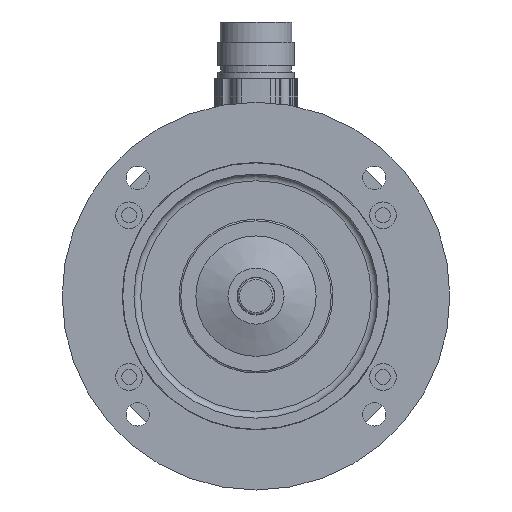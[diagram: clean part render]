
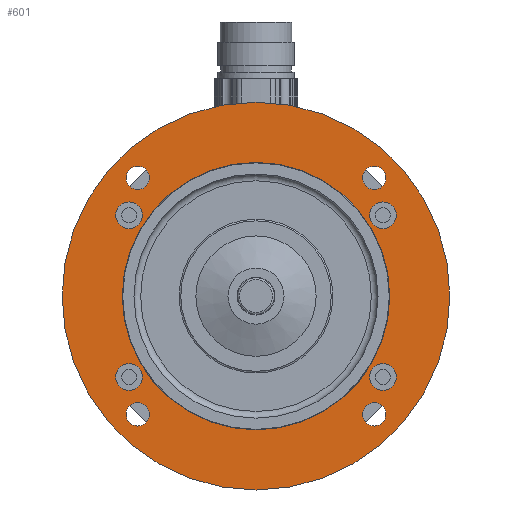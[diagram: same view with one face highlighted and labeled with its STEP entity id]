
A CAD part, front view. The second image highlights one B-rep face of the part: STEP entity #601.
In plain terms, the highlighted planar face has unit normal (0, -1, 0).
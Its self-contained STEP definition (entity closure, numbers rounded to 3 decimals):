
#601=ADVANCED_FACE('',(#1020,#1021,#1022,#1023,#1024,#1025,#1026,#1027,#1028,
#872),#812,.T.);
#812=PLANE('',#3297);
#872=FACE_OUTER_BOUND('',#1250,.T.);
#1020=FACE_BOUND('',#1241,.T.);
#1021=FACE_BOUND('',#1242,.T.);
#1022=FACE_BOUND('',#1243,.T.);
#1023=FACE_BOUND('',#1244,.T.);
#1024=FACE_BOUND('',#1245,.T.);
#1025=FACE_BOUND('',#1246,.T.);
#1026=FACE_BOUND('',#1247,.T.);
#1027=FACE_BOUND('',#1248,.T.);
#1028=FACE_BOUND('',#1249,.T.);
#1241=EDGE_LOOP('',(#1601));
#1242=EDGE_LOOP('',(#1602));
#1243=EDGE_LOOP('',(#1603));
#1244=EDGE_LOOP('',(#1604));
#1245=EDGE_LOOP('',(#1605));
#1246=EDGE_LOOP('',(#1606));
#1247=EDGE_LOOP('',(#1607));
#1248=EDGE_LOOP('',(#1608));
#1249=EDGE_LOOP('',(#1609));
#1250=EDGE_LOOP('',(#1610));
#1601=ORIENTED_EDGE('',*,*,#2634,.T.);
#1602=ORIENTED_EDGE('',*,*,#2635,.F.);
#1603=ORIENTED_EDGE('',*,*,#2636,.F.);
#1604=ORIENTED_EDGE('',*,*,#2637,.T.);
#1605=ORIENTED_EDGE('',*,*,#2638,.T.);
#1606=ORIENTED_EDGE('',*,*,#2639,.T.);
#1607=ORIENTED_EDGE('',*,*,#2640,.T.);
#1608=ORIENTED_EDGE('',*,*,#2641,.T.);
#1609=ORIENTED_EDGE('',*,*,#2642,.F.);
#1610=ORIENTED_EDGE('',*,*,#2643,.F.);
#2343=VERTEX_POINT('',#4891);
#2344=VERTEX_POINT('',#4893);
#2345=VERTEX_POINT('',#4895);
#2346=VERTEX_POINT('',#4897);
#2347=VERTEX_POINT('',#4899);
#2348=VERTEX_POINT('',#4901);
#2349=VERTEX_POINT('',#4903);
#2350=VERTEX_POINT('',#4905);
#2351=VERTEX_POINT('',#4907);
#2352=VERTEX_POINT('',#4909);
#2634=EDGE_CURVE('',#2343,#2343,#3005,.T.);
#2635=EDGE_CURVE('',#2344,#2344,#3006,.T.);
#2636=EDGE_CURVE('',#2345,#2345,#3007,.T.);
#2637=EDGE_CURVE('',#2346,#2346,#3008,.T.);
#2638=EDGE_CURVE('',#2347,#2347,#3009,.T.);
#2639=EDGE_CURVE('',#2348,#2348,#3010,.T.);
#2640=EDGE_CURVE('',#2349,#2349,#3011,.T.);
#2641=EDGE_CURVE('',#2350,#2350,#3012,.T.);
#2642=EDGE_CURVE('',#2351,#2351,#3013,.T.);
#2643=EDGE_CURVE('',#2352,#2352,#3014,.T.);
#3005=CIRCLE('',#3287,4.);
#3006=CIRCLE('',#3288,4.);
#3007=CIRCLE('',#3289,4.);
#3008=CIRCLE('',#3290,4.);
#3009=CIRCLE('',#3291,3.5);
#3010=CIRCLE('',#3292,3.5);
#3011=CIRCLE('',#3293,3.5);
#3012=CIRCLE('',#3294,3.5);
#3013=CIRCLE('',#3295,40.);
#3014=CIRCLE('',#3296,58.);
#3287=AXIS2_PLACEMENT_3D('',#4890,#3800,#3801);
#3288=AXIS2_PLACEMENT_3D('',#4892,#3802,#3803);
#3289=AXIS2_PLACEMENT_3D('',#4894,#3804,#3805);
#3290=AXIS2_PLACEMENT_3D('',#4896,#3806,#3807);
#3291=AXIS2_PLACEMENT_3D('',#4898,#3808,#3809);
#3292=AXIS2_PLACEMENT_3D('',#4900,#3810,#3811);
#3293=AXIS2_PLACEMENT_3D('',#4902,#3812,#3813);
#3294=AXIS2_PLACEMENT_3D('',#4904,#3814,#3815);
#3295=AXIS2_PLACEMENT_3D('',#4906,#3816,#3817);
#3296=AXIS2_PLACEMENT_3D('',#4908,#3818,#3819);
#3297=AXIS2_PLACEMENT_3D('',#4910,#3820,#3821);
#3800=DIRECTION('',(0.,1.,0.));
#3801=DIRECTION('',(0.,0.,-1.));
#3802=DIRECTION('',(0.,-1.,0.));
#3803=DIRECTION('',(0.,0.,-1.));
#3804=DIRECTION('',(0.,-1.,0.));
#3805=DIRECTION('',(0.,0.,1.));
#3806=DIRECTION('',(0.,1.,0.));
#3807=DIRECTION('',(0.,0.,1.));
#3808=DIRECTION('',(0.,1.,0.));
#3809=DIRECTION('',(-1.,0.,0.));
#3810=DIRECTION('',(0.,1.,0.));
#3811=DIRECTION('',(0.,0.,-1.));
#3812=DIRECTION('',(0.,1.,0.));
#3813=DIRECTION('',(1.,0.,0.));
#3814=DIRECTION('',(0.,1.,0.));
#3815=DIRECTION('',(0.,0.,1.));
#3816=DIRECTION('',(0.,-1.,0.));
#3817=DIRECTION('',(0.,0.,-1.));
#3818=DIRECTION('',(0.,1.,0.));
#3819=DIRECTION('',(0.,0.,1.));
#3820=DIRECTION('',(0.,-1.,0.));
#3821=DIRECTION('',(0.,0.,-1.));
#4890=CARTESIAN_POINT('',(37.953,0.,-24.178));
#4891=CARTESIAN_POINT('',(37.953,0.,-28.178));
#4892=CARTESIAN_POINT('',(-37.953,0.,-24.178));
#4893=CARTESIAN_POINT('',(-37.953,0.,-28.178));
#4894=CARTESIAN_POINT('',(37.953,0.,24.178));
#4895=CARTESIAN_POINT('',(37.953,0.,28.178));
#4896=CARTESIAN_POINT('',(-37.953,0.,24.178));
#4897=CARTESIAN_POINT('',(-37.953,0.,28.178));
#4898=CARTESIAN_POINT('',(-35.355,0.,-35.355));
#4899=CARTESIAN_POINT('',(-38.855,0.,-35.355));
#4900=CARTESIAN_POINT('',(35.355,0.,-35.355));
#4901=CARTESIAN_POINT('',(35.355,0.,-38.855));
#4902=CARTESIAN_POINT('',(35.355,0.,35.355));
#4903=CARTESIAN_POINT('',(38.855,0.,35.355));
#4904=CARTESIAN_POINT('',(-35.355,0.,35.355));
#4905=CARTESIAN_POINT('',(-35.355,0.,38.855));
#4906=CARTESIAN_POINT('',(0.,0.,0.));
#4907=CARTESIAN_POINT('',(0.,0.,-40.));
#4908=CARTESIAN_POINT('',(0.,0.,0.));
#4909=CARTESIAN_POINT('',(0.,0.,58.));
#4910=CARTESIAN_POINT('',(0.,0.,0.));
